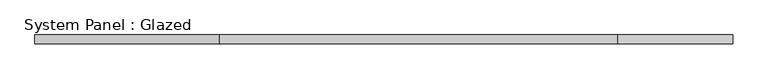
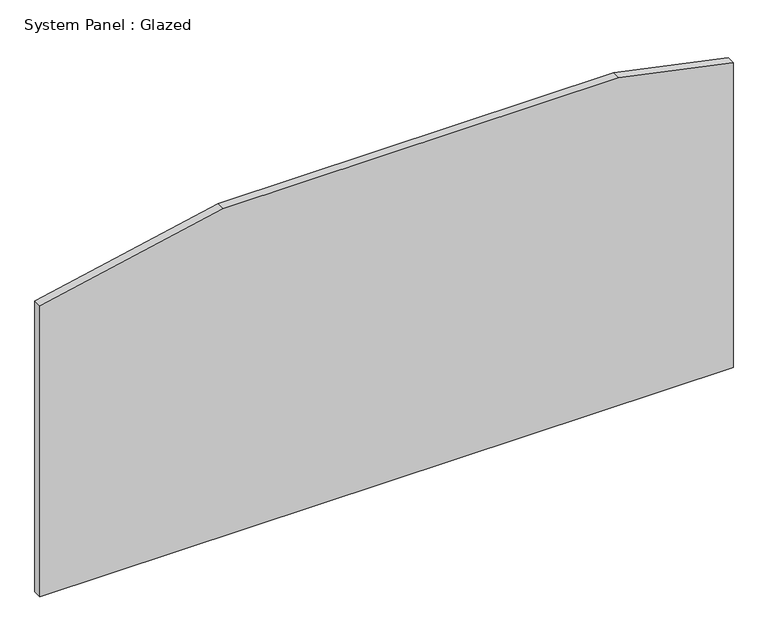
"""IFC4 building model written with IfcOpenShell, lengths in millimetres: plate geometry, System Panel : Glazed."""

from ifc_helpers import new_model, si_unit, frame, origin, place, context, project, spatial, polyline, outline, extrude, source, transform, mapped, element, save


def system_panel_glazed_979c8b4f(model_context):
    return source(origin(), model_context, "Body", "SweptSolid", [
        extrude(outline(polyline([(0.0, -1000.0), (0.0, 1000.0), (929.9349573, 1000.0), (1000.0, 670.3698905), (1000.0, -470.3698905), (887.423645, -1000.0), (0.0, -1000.0)])), frame((0.0, 24.5, 0.0), z_axis=(0.0, 1.0, 0.0), x_axis=(0.0, 0.0, 1.0)), (0.0, 0.0, 1.0), 25.0),
    ])


if __name__ == "__main__":
    model = new_model("IFC4")
    model_context = context("Model", 3, world=origin())
    ifc_project = project(units=[si_unit("LENGTHUNIT", "METRE", prefix="MILLI")], contexts=[model_context])
    site = spatial("IfcSite", under=ifc_project)
    building = spatial("IfcBuilding", under=site)
    placement = place(None, origin())
    system_panel_glazed_shape = system_panel_glazed_979c8b4f(model_context)
    element("IfcPlate", 1, ObjectType="System Panel : Glazed", at=placement, inside=building, context=model_context, shape_type="MappedRepresentation", body=[
        mapped(system_panel_glazed_shape, transform((0.0, 0.0, 0.0), x_axis=(1.0, 0.0, 0.0), y_axis=(0.0, 1.0, 0.0), z_axis=(0.0, 0.0, 1.0))),
    ])
    save(model, "model.ifc")
